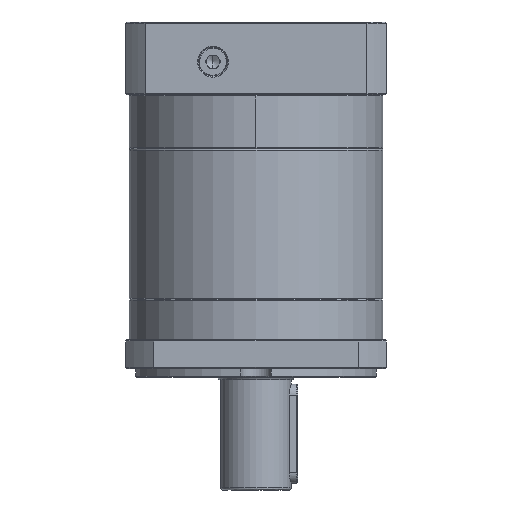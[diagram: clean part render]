
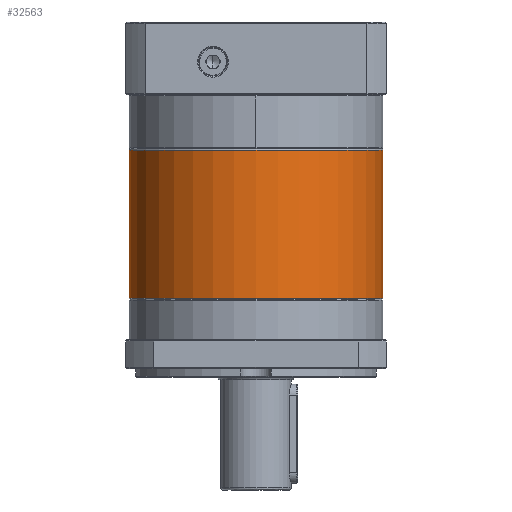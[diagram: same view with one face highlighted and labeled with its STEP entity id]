
A CAD part, front view. The second image highlights one B-rep face of the part: STEP entity #32563.
In plain terms, the highlighted cylindrical face has radius 57.5 mm (diameter 115 mm), a partial arc.
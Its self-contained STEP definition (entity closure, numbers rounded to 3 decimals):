
#4551 = ORIENTED_EDGE ( 'NONE', *, *, #26021, .F. ) ;
#5947 = AXIS2_PLACEMENT_3D ( 'NONE', #32696, #115703, #84440 ) ;
#6141 = VERTEX_POINT ( 'NONE', #43862 ) ;
#6230 = CARTESIAN_POINT ( 'NONE',  ( -32.033, -2.282, 121.291 ) ) ;
#7976 = CARTESIAN_POINT ( 'NONE',  ( 25.467, -2.282, 189.002 ) ) ;
#12338 = EDGE_LOOP ( 'NONE', ( #4551, #74094, #113448, #21134, #52463 ) ) ;
#13112 = VERTEX_POINT ( 'NONE', #28562 ) ;
#13542 = CIRCLE ( 'NONE', #28850, 57.5 ) ;
#16001 = CARTESIAN_POINT ( 'NONE',  ( 25.467, -2.282, 188.502 ) ) ;
#17714 = CIRCLE ( 'NONE', #5947, 57.5 ) ;
#21134 = ORIENTED_EDGE ( 'NONE', *, *, #54286, .T. ) ;
#21619 = LINE ( 'NONE', #7976, #60198 ) ;
#21695 = CYLINDRICAL_SURFACE ( 'NONE', #74438, 57.5 ) ;
#26021 = EDGE_CURVE ( 'NONE', #115505, #13112, #21619, .T. ) ;
#28562 = CARTESIAN_POINT ( 'NONE',  ( 25.467, -2.282, 121.291 ) ) ;
#28850 = AXIS2_PLACEMENT_3D ( 'NONE', #6230, #58165, #68580 ) ;
#28990 = DIRECTION ( 'NONE',  ( 0., 0., -1. ) ) ;
#30954 = CARTESIAN_POINT ( 'NONE',  ( -89.533, -2.282, 188.502 ) ) ;
#32563 = ADVANCED_FACE ( 'NONE', ( #100660 ), #21695, .T. ) ;
#32696 = CARTESIAN_POINT ( 'NONE',  ( -32.033, -2.282, 188.502 ) ) ;
#32940 = LINE ( 'NONE', #38590, #124528 ) ;
#37624 = EDGE_CURVE ( 'NONE', #6141, #81082, #95535, .T. ) ;
#38590 = CARTESIAN_POINT ( 'NONE',  ( -89.533, -2.282, 189.002 ) ) ;
#43862 = CARTESIAN_POINT ( 'NONE',  ( -32.033, -59.782, 188.502 ) ) ;
#45884 = DIRECTION ( 'NONE',  ( 0., 0., -1. ) ) ;
#47893 = DIRECTION ( 'NONE',  ( -1., 0., 0. ) ) ;
#52463 = ORIENTED_EDGE ( 'NONE', *, *, #54681, .T. ) ;
#54286 = EDGE_CURVE ( 'NONE', #81082, #80807, #32940, .T. ) ;
#54681 = EDGE_CURVE ( 'NONE', #80807, #13112, #13542, .T. ) ;
#57919 = CARTESIAN_POINT ( 'NONE',  ( -89.533, -2.282, 121.291 ) ) ;
#58165 = DIRECTION ( 'NONE',  ( 0., 0., 1. ) ) ;
#60198 = VECTOR ( 'NONE', #28990, 1000. ) ;
#62097 = EDGE_CURVE ( 'NONE', #115505, #6141, #17714, .T. ) ;
#68364 = AXIS2_PLACEMENT_3D ( 'NONE', #129248, #45884, #108253 ) ;
#68580 = DIRECTION ( 'NONE',  ( -1., 0., 0. ) ) ;
#74094 = ORIENTED_EDGE ( 'NONE', *, *, #62097, .T. ) ;
#74438 = AXIS2_PLACEMENT_3D ( 'NONE', #108951, #129494, #47893 ) ;
#80807 = VERTEX_POINT ( 'NONE', #57919 ) ;
#81082 = VERTEX_POINT ( 'NONE', #30954 ) ;
#84440 = DIRECTION ( 'NONE',  ( -1., 0., 0. ) ) ;
#95535 = CIRCLE ( 'NONE', #68364, 57.5 ) ;
#100660 = FACE_OUTER_BOUND ( 'NONE', #12338, .T. ) ;
#108253 = DIRECTION ( 'NONE',  ( -1., 0., 0. ) ) ;
#108951 = CARTESIAN_POINT ( 'NONE',  ( -32.033, -2.282, 189.002 ) ) ;
#113448 = ORIENTED_EDGE ( 'NONE', *, *, #37624, .T. ) ;
#115505 = VERTEX_POINT ( 'NONE', #16001 ) ;
#115703 = DIRECTION ( 'NONE',  ( 0., 0., -1. ) ) ;
#121147 = DIRECTION ( 'NONE',  ( 0., 0., -1. ) ) ;
#124528 = VECTOR ( 'NONE', #121147, 1000. ) ;
#129248 = CARTESIAN_POINT ( 'NONE',  ( -32.033, -2.282, 188.502 ) ) ;
#129494 = DIRECTION ( 'NONE',  ( 0., 0., -1. ) ) ;
